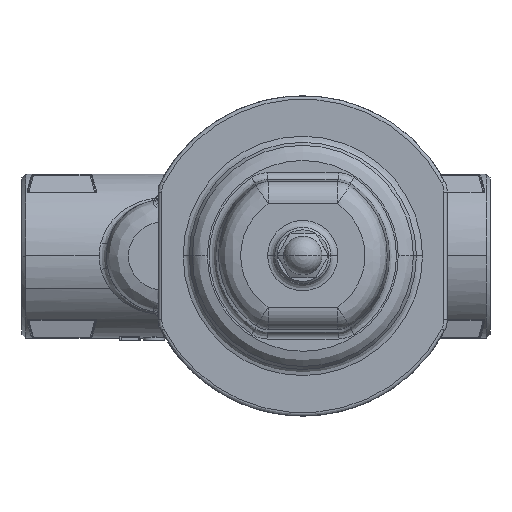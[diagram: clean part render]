
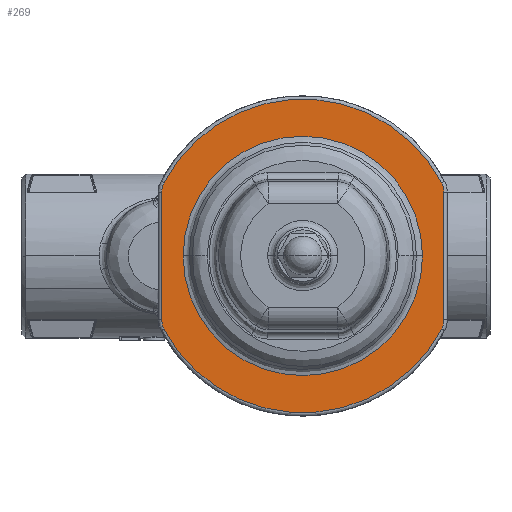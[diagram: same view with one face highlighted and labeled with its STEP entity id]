
A CAD part, top view. The second image highlights one B-rep face of the part: STEP entity #269.
In plain terms, the highlighted planar face has unit normal (0, 0, 1).
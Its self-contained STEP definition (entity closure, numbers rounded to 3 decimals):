
#269=ADVANCED_FACE('',(#1260,#1261),#1259,.T.);
#1259=PLANE('',#7027);
#1260=FACE_OUTER_BOUND('',#7028,.T.);
#1261=FACE_BOUND('',#7029,.T.);
#7024=CARTESIAN_POINT('',(-70.25,-77.,10.));
#7025=DIRECTION('',(0.,0.,1.));
#7026=DIRECTION('',(1.,0.,0.));
#7027=AXIS2_PLACEMENT_3D('',#7024,#7025,#7026);
#7028=EDGE_LOOP('',(#17339,#17340,#17341,#17342,#17343,#17344,#17345,#17346));
#7029=EDGE_LOOP('',(#17347,#17348));
#17339=ORIENTED_EDGE('',*,*,#19887,.T.);
#17340=ORIENTED_EDGE('',*,*,#19903,.T.);
#17341=ORIENTED_EDGE('',*,*,#19897,.T.);
#17342=ORIENTED_EDGE('',*,*,#19900,.T.);
#17343=ORIENTED_EDGE('',*,*,#19891,.T.);
#17344=ORIENTED_EDGE('',*,*,#19901,.T.);
#17345=ORIENTED_EDGE('',*,*,#19895,.T.);
#17346=ORIENTED_EDGE('',*,*,#19902,.T.);
#17347=ORIENTED_EDGE('',*,*,#19925,.T.);
#17348=ORIENTED_EDGE('',*,*,#19926,.T.);
#19887=EDGE_CURVE('',#21677,#21670,#21678,.T.);
#19891=EDGE_CURVE('',#21703,#21696,#21704,.T.);
#19895=EDGE_CURVE('',#21729,#21722,#21730,.T.);
#19897=EDGE_CURVE('',#21742,#21743,#21744,.T.);
#19900=EDGE_CURVE('',#21743,#21703,#21762,.T.);
#19901=EDGE_CURVE('',#21696,#21729,#21768,.T.);
#19902=EDGE_CURVE('',#21722,#21677,#21774,.T.);
#19903=EDGE_CURVE('',#21670,#21742,#21780,.T.);
#19925=EDGE_CURVE('',#21920,#21921,#21922,.T.);
#19926=EDGE_CURVE('',#21921,#21920,#21928,.T.);
#21670=VERTEX_POINT('',#30320);
#21677=VERTEX_POINT('',#30325);
#21678=LINE('',#30326,#30327);
#21696=VERTEX_POINT('',#30336);
#21703=VERTEX_POINT('',#30341);
#21704=LINE('',#30342,#30343);
#21722=VERTEX_POINT('',#30353);
#21729=VERTEX_POINT('',#30358);
#21730=CIRCLE('',#30362,67.);
#21742=VERTEX_POINT('',#30367);
#21743=VERTEX_POINT('',#30368);
#21744=CIRCLE('',#30372,67.);
#21762=CIRCLE('',#30384,8.5);
#21768=CIRCLE('',#30388,8.5);
#21774=CIRCLE('',#30392,8.5);
#21780=CIRCLE('',#30396,8.5);
#21920=VERTEX_POINT('',#30518);
#21921=VERTEX_POINT('',#30519);
#21922=CIRCLE('',#30523,51.155);
#21928=CIRCLE('',#30527,51.155);
#30320=CARTESIAN_POINT('',(-60.25,-27.28,10.));
#30325=CARTESIAN_POINT('',(-60.25,27.28,10.));
#30326=CARTESIAN_POINT('',(-60.25,27.28,10.));
#30327=VECTOR('',#30328,54.56);
#30328=DIRECTION('',(0.,-1.,0.));
#30336=CARTESIAN_POINT('',(60.25,27.28,10.));
#30341=CARTESIAN_POINT('',(60.25,-27.28,10.));
#30342=CARTESIAN_POINT('',(60.25,-27.28,10.));
#30343=VECTOR('',#30344,54.56);
#30344=DIRECTION('',(0.,1.,0.));
#30353=CARTESIAN_POINT('',(-59.269,31.244,10.));
#30358=CARTESIAN_POINT('',(59.269,31.244,10.));
#30359=CARTESIAN_POINT('',(0.,0.,10.));
#30360=DIRECTION('',(0.,0.,1.));
#30361=DIRECTION('',(-1.,0.,0.));
#30362=AXIS2_PLACEMENT_3D('',#30359,#30360,#30361);
#30367=CARTESIAN_POINT('',(-59.269,-31.244,10.));
#30368=CARTESIAN_POINT('',(59.269,-31.244,10.));
#30369=CARTESIAN_POINT('',(0.,0.,10.));
#30370=DIRECTION('',(0.,0.,1.));
#30371=DIRECTION('',(-1.,0.,0.));
#30372=AXIS2_PLACEMENT_3D('',#30369,#30370,#30371);
#30381=CARTESIAN_POINT('',(51.75,-27.28,10.));
#30382=DIRECTION('',(0.,0.,1.));
#30383=DIRECTION('',(-1.,0.,0.));
#30384=AXIS2_PLACEMENT_3D('',#30381,#30382,#30383);
#30385=CARTESIAN_POINT('',(51.75,27.28,10.));
#30386=DIRECTION('',(0.,0.,1.));
#30387=DIRECTION('',(-1.,0.,0.));
#30388=AXIS2_PLACEMENT_3D('',#30385,#30386,#30387);
#30389=CARTESIAN_POINT('',(-51.75,27.28,10.));
#30390=DIRECTION('',(0.,0.,1.));
#30391=DIRECTION('',(-1.,0.,0.));
#30392=AXIS2_PLACEMENT_3D('',#30389,#30390,#30391);
#30393=CARTESIAN_POINT('',(-51.75,-27.28,10.));
#30394=DIRECTION('',(0.,0.,1.));
#30395=DIRECTION('',(-1.,0.,0.));
#30396=AXIS2_PLACEMENT_3D('',#30393,#30394,#30395);
#30518=CARTESIAN_POINT('',(-51.155,0.,10.));
#30519=CARTESIAN_POINT('',(51.155,0.,10.));
#30520=CARTESIAN_POINT('',(0.,0.,10.));
#30521=DIRECTION('',(0.,0.,-1.));
#30522=DIRECTION('',(-1.,0.,0.));
#30523=AXIS2_PLACEMENT_3D('',#30520,#30521,#30522);
#30524=CARTESIAN_POINT('',(0.,0.,10.));
#30525=DIRECTION('',(0.,0.,-1.));
#30526=DIRECTION('',(-1.,0.,0.));
#30527=AXIS2_PLACEMENT_3D('',#30524,#30525,#30526);
